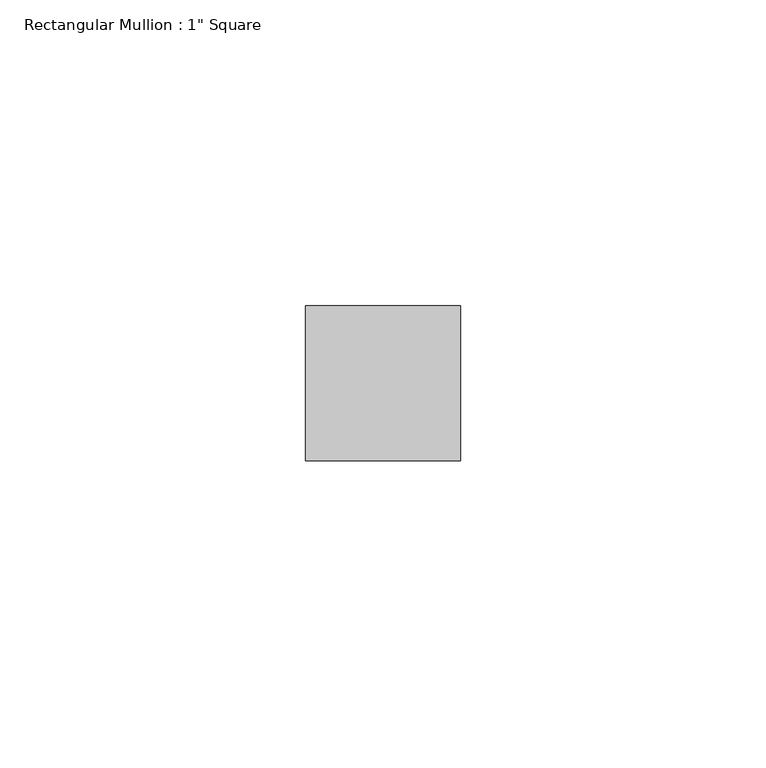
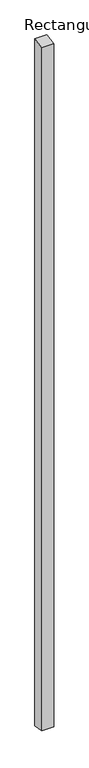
"""IFC4 building model written with IfcOpenShell, lengths in millimetres: member geometry."""

from ifc_helpers import new_model, si_unit, frame, origin, place, context, project, spatial, polyline, outline, extrude, source, transform, mapped, element, save


def member_3dac9f4a(model_context):
    return source(origin(), model_context, "Body", "SweptSolid", [
        extrude(outline(polyline([(-12.7, -2.1466918), (12.7, 2.1466918), (12.7, -1526.1466918), (-12.7, -1521.8533082), (-12.7, -2.1466918)])), frame((-12.7, 0.0, 0.0), z_axis=(1.0, 0.0, 0.0), x_axis=(0.0, 1.0, 0.0)), (0.0, 0.0, 1.0), 25.4),
    ])


if __name__ == "__main__":
    model = new_model("IFC4")
    model_context = context("Model", 3, world=origin())
    ifc_project = project(units=[si_unit("LENGTHUNIT", "METRE", prefix="MILLI")], contexts=[model_context])
    site = spatial("IfcSite", under=ifc_project)
    building = spatial("IfcBuilding", under=site)
    placement = place(None, origin())
    member_shape = member_3dac9f4a(model_context)
    element("IfcMember", 1, ObjectType="Rectangular Mullion : 1\" Square", at=placement, inside=building, context=model_context, shape_type="MappedRepresentation", body=[
        mapped(member_shape, transform((0.0, 0.0, 0.0), x_axis=(1.0, 0.0, 0.0), y_axis=(0.0, 1.0, 0.0), z_axis=(0.0, 0.0, 1.0))),
    ])
    save(model, "model.ifc")
